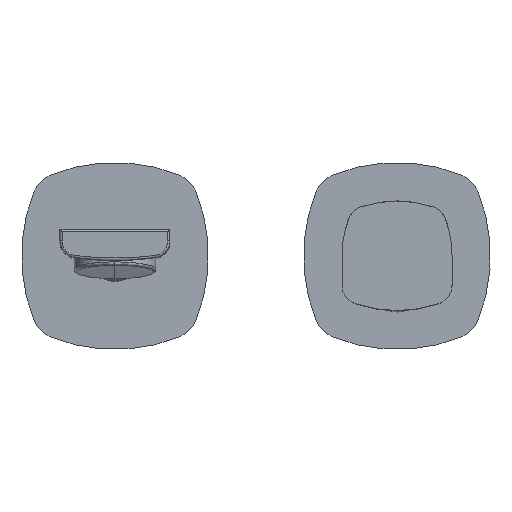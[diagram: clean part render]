
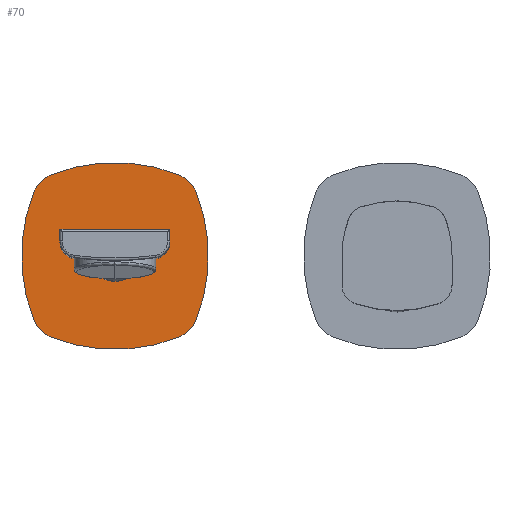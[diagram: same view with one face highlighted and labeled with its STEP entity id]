
A CAD part, top view. The second image highlights one B-rep face of the part: STEP entity #70.
In plain terms, the highlighted planar face has unit normal (0, 0, 1).
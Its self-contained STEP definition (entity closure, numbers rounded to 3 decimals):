
#70 = ADVANCED_FACE('',(#71,#145),#234,.T.);
#71 = FACE_BOUND('',#72,.T.);
#72 = EDGE_LOOP('',(#73,#84,#93,#102,#111,#120,#129,#138));
#73 = ORIENTED_EDGE('',*,*,#74,.T.);
#74 = EDGE_CURVE('',#75,#77,#79,.T.);
#75 = VERTEX_POINT('',#76);
#76 = CARTESIAN_POINT('',(-22.538,28.784,2.5
    ));
#77 = VERTEX_POINT('',#78);
#78 = CARTESIAN_POINT('',(-28.784,22.538,2.5
    ));
#79 = CIRCLE('',#80,11.25);
#80 = AXIS2_PLACEMENT_3D('',#81,#82,#83);
#81 = CARTESIAN_POINT('',(-18.345,18.345,2.5)
  );
#82 = DIRECTION('',(0.,0.,1.));
#83 = DIRECTION('',(-0.928,0.373,0.));
#84 = ORIENTED_EDGE('',*,*,#85,.T.);
#85 = EDGE_CURVE('',#77,#86,#88,.T.);
#86 = VERTEX_POINT('',#87);
#87 = CARTESIAN_POINT('',(-28.784,-22.538,2.5
    ));
#88 = CIRCLE('',#89,60.47);
#89 = AXIS2_PLACEMENT_3D('',#90,#91,#92);
#90 = CARTESIAN_POINT('',(27.329,0.,
    2.5));
#91 = DIRECTION('',(0.,0.,1.));
#92 = DIRECTION('',(-0.928,-0.373,0.));
#93 = ORIENTED_EDGE('',*,*,#94,.T.);
#94 = EDGE_CURVE('',#86,#95,#97,.T.);
#95 = VERTEX_POINT('',#96);
#96 = CARTESIAN_POINT('',(-22.538,-28.784,2.5)
  );
#97 = CIRCLE('',#98,11.25);
#98 = AXIS2_PLACEMENT_3D('',#99,#100,#101);
#99 = CARTESIAN_POINT('',(-18.345,-18.345,2.5)
  );
#100 = DIRECTION('',(0.,0.,1.));
#101 = DIRECTION('',(-0.373,-0.928,0.));
#102 = ORIENTED_EDGE('',*,*,#103,.T.);
#103 = EDGE_CURVE('',#95,#104,#106,.T.);
#104 = VERTEX_POINT('',#105);
#105 = CARTESIAN_POINT('',(22.538,-28.784,
    2.5));
#106 = CIRCLE('',#107,60.47);
#107 = AXIS2_PLACEMENT_3D('',#108,#109,#110);
#108 = CARTESIAN_POINT('',(0.,27.329,
    2.5));
#109 = DIRECTION('',(0.,0.,1.));
#110 = DIRECTION('',(0.373,-0.928,0.));
#111 = ORIENTED_EDGE('',*,*,#112,.T.);
#112 = EDGE_CURVE('',#104,#113,#115,.T.);
#113 = VERTEX_POINT('',#114);
#114 = CARTESIAN_POINT('',(28.784,-22.538,
    2.5));
#115 = CIRCLE('',#116,11.25);
#116 = AXIS2_PLACEMENT_3D('',#117,#118,#119);
#117 = CARTESIAN_POINT('',(18.345,-18.345,2.5
    ));
#118 = DIRECTION('',(0.,0.,1.));
#119 = DIRECTION('',(0.928,-0.373,0.));
#120 = ORIENTED_EDGE('',*,*,#121,.T.);
#121 = EDGE_CURVE('',#113,#122,#124,.T.);
#122 = VERTEX_POINT('',#123);
#123 = CARTESIAN_POINT('',(28.784,22.538,2.5)
  );
#124 = CIRCLE('',#125,60.47);
#125 = AXIS2_PLACEMENT_3D('',#126,#127,#128);
#126 = CARTESIAN_POINT('',(-27.329,0.,
    2.5));
#127 = DIRECTION('',(0.,0.,1.));
#128 = DIRECTION('',(0.928,0.373,-0.));
#129 = ORIENTED_EDGE('',*,*,#130,.T.);
#130 = EDGE_CURVE('',#122,#131,#133,.T.);
#131 = VERTEX_POINT('',#132);
#132 = CARTESIAN_POINT('',(22.538,28.784,
    2.5));
#133 = CIRCLE('',#134,11.25);
#134 = AXIS2_PLACEMENT_3D('',#135,#136,#137);
#135 = CARTESIAN_POINT('',(18.345,18.345,2.5
    ));
#136 = DIRECTION('',(0.,0.,1.));
#137 = DIRECTION('',(0.373,0.928,-0.));
#138 = ORIENTED_EDGE('',*,*,#139,.T.);
#139 = EDGE_CURVE('',#131,#75,#140,.T.);
#140 = CIRCLE('',#141,60.47);
#141 = AXIS2_PLACEMENT_3D('',#142,#143,#144);
#142 = CARTESIAN_POINT('',(0.,-27.329,
    2.5));
#143 = DIRECTION('',(0.,0.,1.));
#144 = DIRECTION('',(-0.373,0.928,0.));
#145 = FACE_BOUND('',#146,.T.);
#146 = EDGE_LOOP('',(#147,#158,#167,#176,#185,#194,#202,#210,#218,#227)
  );
#147 = ORIENTED_EDGE('',*,*,#148,.T.);
#148 = EDGE_CURVE('',#149,#151,#153,.T.);
#149 = VERTEX_POINT('',#150);
#150 = CARTESIAN_POINT('',(11.857,-1.31,
    2.5));
#151 = VERTEX_POINT('',#152);
#152 = CARTESIAN_POINT('',(7.842,-4.511,2.5
    ));
#153 = CIRCLE('',#154,7.158);
#154 = AXIS2_PLACEMENT_3D('',#155,#156,#157);
#155 = CARTESIAN_POINT('',(14.015,-8.135,2.5
    ));
#156 = DIRECTION('',(0.,0.,1.));
#157 = DIRECTION('',(-1.,0.,0.));
#158 = ORIENTED_EDGE('',*,*,#159,.T.);
#159 = EDGE_CURVE('',#151,#160,#162,.T.);
#160 = VERTEX_POINT('',#161);
#161 = CARTESIAN_POINT('',(-7.842,-4.511,
    2.5));
#162 = CIRCLE('',#163,9.094);
#163 = AXIS2_PLACEMENT_3D('',#164,#165,#166);
#164 = CARTESIAN_POINT('',(0.,0.093,
    2.5));
#165 = DIRECTION('',(0.,0.,-1.));
#166 = DIRECTION('',(1.,0.,0.));
#167 = ORIENTED_EDGE('',*,*,#168,.T.);
#168 = EDGE_CURVE('',#160,#169,#171,.T.);
#169 = VERTEX_POINT('',#170);
#170 = CARTESIAN_POINT('',(-11.857,-1.31,
    2.5));
#171 = CIRCLE('',#172,7.158);
#172 = AXIS2_PLACEMENT_3D('',#173,#174,#175);
#173 = CARTESIAN_POINT('',(-14.015,-8.135,
    2.5));
#174 = DIRECTION('',(0.,0.,1.));
#175 = DIRECTION('',(1.,0.,-0.));
#176 = ORIENTED_EDGE('',*,*,#177,.T.);
#177 = EDGE_CURVE('',#169,#178,#180,.T.);
#178 = VERTEX_POINT('',#179);
#179 = CARTESIAN_POINT('',(-14.35,-0.985,2.5)
  );
#180 = CIRCLE('',#181,101.314);
#181 = AXIS2_PLACEMENT_3D('',#182,#183,#184);
#182 = CARTESIAN_POINT('',(0.,99.308,2.5));
#183 = DIRECTION('',(0.,0.,-1.));
#184 = DIRECTION('',(1.,0.,0.));
#185 = ORIENTED_EDGE('',*,*,#186,.T.);
#186 = EDGE_CURVE('',#178,#187,#189,.T.);
#187 = VERTEX_POINT('',#188);
#188 = CARTESIAN_POINT('',(-19.5,4.955,2.5
    ));
#189 = CIRCLE('',#190,6.);
#190 = AXIS2_PLACEMENT_3D('',#191,#192,#193);
#191 = CARTESIAN_POINT('',(-13.5,4.955,2.5
    ));
#192 = DIRECTION('',(0.,0.,-1.));
#193 = DIRECTION('',(1.,0.,0.));
#194 = ORIENTED_EDGE('',*,*,#195,.T.);
#195 = EDGE_CURVE('',#187,#196,#198,.T.);
#196 = VERTEX_POINT('',#197);
#197 = CARTESIAN_POINT('',(-19.5,9.045,2.5
    ));
#198 = LINE('',#199,#200);
#199 = CARTESIAN_POINT('',(-19.5,4.955,2.5
    ));
#200 = VECTOR('',#201,1.);
#201 = DIRECTION('',(0.,1.,0.));
#202 = ORIENTED_EDGE('',*,*,#203,.T.);
#203 = EDGE_CURVE('',#196,#204,#206,.T.);
#204 = VERTEX_POINT('',#205);
#205 = CARTESIAN_POINT('',(19.5,9.045,2.5
    ));
#206 = LINE('',#207,#208);
#207 = CARTESIAN_POINT('',(-19.5,9.045,2.5
    ));
#208 = VECTOR('',#209,1.);
#209 = DIRECTION('',(1.,0.,0.));
#210 = ORIENTED_EDGE('',*,*,#211,.T.);
#211 = EDGE_CURVE('',#204,#212,#214,.T.);
#212 = VERTEX_POINT('',#213);
#213 = CARTESIAN_POINT('',(19.5,4.955,2.5
    ));
#214 = LINE('',#215,#216);
#215 = CARTESIAN_POINT('',(19.5,9.045,2.5
    ));
#216 = VECTOR('',#217,1.);
#217 = DIRECTION('',(0.,-1.,0.));
#218 = ORIENTED_EDGE('',*,*,#219,.T.);
#219 = EDGE_CURVE('',#212,#220,#222,.T.);
#220 = VERTEX_POINT('',#221);
#221 = CARTESIAN_POINT('',(14.35,-0.985,
    2.5));
#222 = CIRCLE('',#223,6.);
#223 = AXIS2_PLACEMENT_3D('',#224,#225,#226);
#224 = CARTESIAN_POINT('',(13.5,4.955,2.5
    ));
#225 = DIRECTION('',(0.,0.,-1.));
#226 = DIRECTION('',(1.,0.,0.));
#227 = ORIENTED_EDGE('',*,*,#228,.T.);
#228 = EDGE_CURVE('',#220,#149,#229,.T.);
#229 = CIRCLE('',#230,101.314);
#230 = AXIS2_PLACEMENT_3D('',#231,#232,#233);
#231 = CARTESIAN_POINT('',(0.,99.308,2.5));
#232 = DIRECTION('',(0.,0.,-1.));
#233 = DIRECTION('',(1.,0.,0.));
#234 = PLANE('',#235);
#235 = AXIS2_PLACEMENT_3D('',#236,#237,#238);
#236 = CARTESIAN_POINT('',(-28.784,22.538,
    2.5));
#237 = DIRECTION('',(0.,0.,1.));
#238 = DIRECTION('',(-0.373,-0.928,0.));
